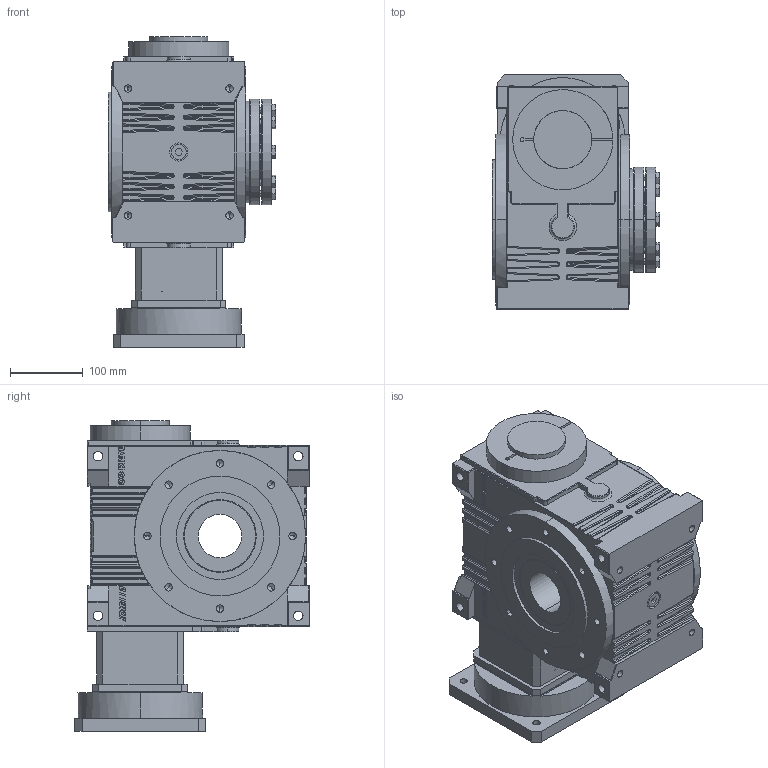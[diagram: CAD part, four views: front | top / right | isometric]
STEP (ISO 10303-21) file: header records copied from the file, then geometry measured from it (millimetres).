
FILE_DESCRIPTION (( 'STEP AP214' ), '1' );
FILE_NAME ('JDLB110-(5~90)-C1-35-114.3-200-M12.STEP', '2022-04-02T10:57:53', ( '' ), ( '' ), 'SwSTEP 2.0', 'SolidWorks 2018', '' );
FILE_SCHEMA (( 'AUTOMOTIVE_DESIGN' ));
Length unit declared in the file: millimetre
Products named in the file (7): JDLB110-CR眊极; JDLB110C1坶踡攫-80-145-30; JDLB110-(5~90)-C1-35-114.3-200-M12; JDLB110-C1諾陑粣朴60; 联轴器BD68-73.3-32-35锁紧; ST180-114.3-200-M12侜督楊擘諉諳; JDLB110-ST130输入法兰
Assembly tree (6 placements, depth 2):
  JDLB110-(5~90)-C1-35-114.3-200-M12
    JDLB110-CR眊极
    JDLB110-C1諾陑粣朴60
    JDLB110-ST130输入法兰
    ST180-114.3-200-M12侜督楊擘諉諳
    联轴器BD68-73.3-32-35锁紧
    JDLB110C1坶踡攫-80-145-30
Bounding box: 230.5 x 323 x 427.74 mm (x, y, z)
Volume: 15206844 mm3; surface area: 998705.6 mm2
Topology: 17 solids, 17 shells, 1967 faces, 4920 edges, 3016 vertices
Faces by surface type: plane 861, cylinder 685, bspline 124, torus 118, cone 97, sphere 82
Entity records: 70229 total; most frequent: CARTESIAN_POINT 19764, ORIENTED_EDGE 9560, DIRECTION 9395, EDGE_CURVE 4780, AXIS2_PLACEMENT_3D 3374, VERTEX_POINT 3016, VECTOR 2647, LINE 2647
